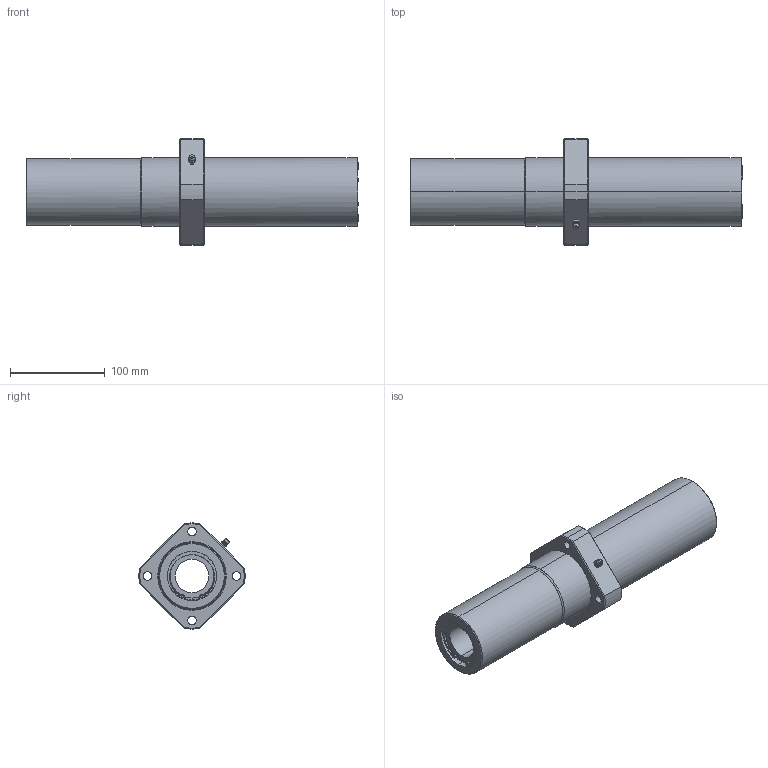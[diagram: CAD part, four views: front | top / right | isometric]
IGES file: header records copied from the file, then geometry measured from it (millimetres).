
Global section: file name: No Iges File Name specified; native system: AutoDesk Inventor R10; preprocessor: AutoDesk Inventor Iges Exporter R10; author: No Author specified; organization: No Organization specified; date: 20101214.141802; units: millimetre
Bounding box: 350 x 111.86 x 112 mm (x, y, z)
Surface area: 145919.9 mm2 (no closed solid volume)
Topology: 0 solids, 0 shells, 186 faces, 1232 edges, 1230 vertices
Faces by surface type: bspline 186
